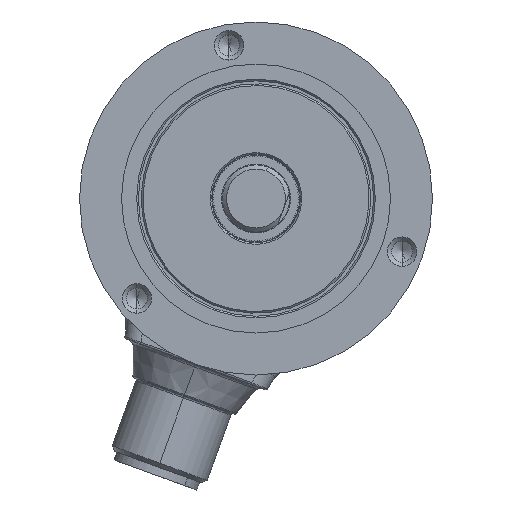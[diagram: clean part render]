
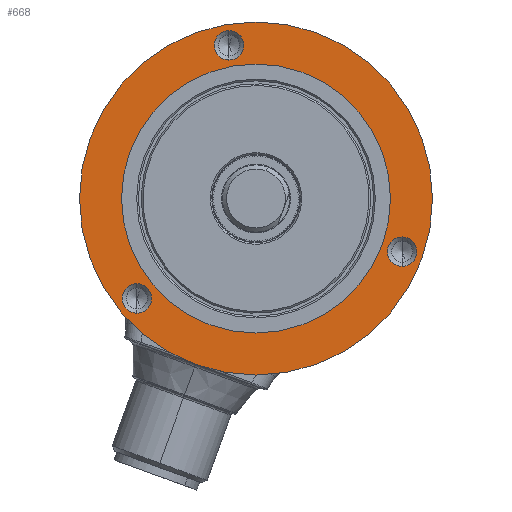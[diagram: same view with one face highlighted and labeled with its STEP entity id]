
A CAD part, left-side view. The second image highlights one B-rep face of the part: STEP entity #668.
In plain terms, the highlighted planar face has unit normal (-1, 0, 0).
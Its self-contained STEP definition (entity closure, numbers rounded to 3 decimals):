
#183 = AXIS2_PLACEMENT_3D ( 'NONE', #10030, #27167, #12517 ) ;
#259 = FACE_OUTER_BOUND ( 'NONE', #29503, .T. ) ;
#540 = VERTEX_POINT ( 'NONE', #30555 ) ;
#668 = ADVANCED_FACE ( 'NONE', ( #6761, #26299, #1012, #13272, #259 ), #26188, .F. ) ;
#802 = DIRECTION ( 'NONE',  ( 0., -1., 0. ) ) ;
#1012 = FACE_BOUND ( 'NONE', #29962, .T. ) ;
#1088 = CARTESIAN_POINT ( 'NONE',  ( 3., 14.172, -11.892 ) ) ;
#1561 = DIRECTION ( 'NONE',  ( 0., -1., 0. ) ) ;
#1656 = CIRCLE ( 'NONE', #10517, 16. ) ;
#1790 = CARTESIAN_POINT ( 'NONE',  ( 3., 16., 0. ) ) ;
#2003 = CIRCLE ( 'NONE', #20292, 1.75 ) ;
#2335 = DIRECTION ( 'NONE',  ( 0., 0., 1. ) ) ;
#2362 = VERTEX_POINT ( 'NONE', #6797 ) ;
#2902 = ORIENTED_EDGE ( 'NONE', *, *, #26740, .F. ) ;
#3404 = EDGE_CURVE ( 'NONE', #4260, #26499, #25350, .T. ) ;
#3518 = DIRECTION ( 'NONE',  ( 0., 0., 1. ) ) ;
#3694 = EDGE_CURVE ( 'NONE', #2362, #15219, #2003, .T. ) ;
#4260 = VERTEX_POINT ( 'NONE', #23255 ) ;
#4829 = DIRECTION ( 'NONE',  ( -1., 0., 0. ) ) ;
#4921 = VERTEX_POINT ( 'NONE', #6054 ) ;
#6054 = CARTESIAN_POINT ( 'NONE',  ( 3., -16., 0. ) ) ;
#6715 = DIRECTION ( 'NONE',  ( 0., 1., 0. ) ) ;
#6761 = FACE_BOUND ( 'NONE', #13428, .T. ) ;
#6797 = CARTESIAN_POINT ( 'NONE',  ( 3., 3.212, 19.969 ) ) ;
#7300 = ORIENTED_EDGE ( 'NONE', *, *, #19453, .F. ) ;
#7619 = DIRECTION ( 'NONE',  ( -1., 0., 0. ) ) ;
#7814 = AXIS2_PLACEMENT_3D ( 'NONE', #23008, #8363, #25476 ) ;
#8215 = CIRCLE ( 'NONE', #183, 1.75 ) ;
#8363 = DIRECTION ( 'NONE',  ( -1., 0., 0. ) ) ;
#8583 = DIRECTION ( 'NONE',  ( -1., 0., 0. ) ) ;
#8671 = EDGE_CURVE ( 'NONE', #4921, #540, #1656, .T. ) ;
#8792 = CARTESIAN_POINT ( 'NONE',  ( 3., -17.384, -8.077 ) ) ;
#9215 = CARTESIAN_POINT ( 'NONE',  ( 3., 21., 0. ) ) ;
#10030 = CARTESIAN_POINT ( 'NONE',  ( 3., 14.172, -11.892 ) ) ;
#10187 = AXIS2_PLACEMENT_3D ( 'NONE', #1790, #21363, #6715 ) ;
#10285 = CIRCLE ( 'NONE', #28074, 1.75 ) ;
#10517 = AXIS2_PLACEMENT_3D ( 'NONE', #30109, #15465, #802 ) ;
#10748 = AXIS2_PLACEMENT_3D ( 'NONE', #23248, #8583, #25707 ) ;
#11335 = CARTESIAN_POINT ( 'NONE',  ( 3., 14.172, -13.642 ) ) ;
#11648 = CARTESIAN_POINT ( 'NONE',  ( 3., 3.212, 16.469 ) ) ;
#11714 = DIRECTION ( 'NONE',  ( -1., 0., 0. ) ) ;
#12206 = VERTEX_POINT ( 'NONE', #30988 ) ;
#12517 = DIRECTION ( 'NONE',  ( 0., 0., 1. ) ) ;
#13272 = FACE_BOUND ( 'NONE', #15064, .T. ) ;
#13428 = EDGE_LOOP ( 'NONE', ( #20135, #2902 ) ) ;
#13640 = EDGE_CURVE ( 'NONE', #26716, #15437, #18579, .T. ) ;
#14570 = CIRCLE ( 'NONE', #10748, 16. ) ;
#14814 = ORIENTED_EDGE ( 'NONE', *, *, #3694, .F. ) ;
#14819 = EDGE_CURVE ( 'NONE', #15219, #2362, #30739, .T. ) ;
#15064 = EDGE_LOOP ( 'NONE', ( #29392, #29697 ) ) ;
#15157 = VERTEX_POINT ( 'NONE', #11335 ) ;
#15219 = VERTEX_POINT ( 'NONE', #11648 ) ;
#15355 = EDGE_LOOP ( 'NONE', ( #7300, #19020 ) ) ;
#15437 = VERTEX_POINT ( 'NONE', #9215 ) ;
#15465 = DIRECTION ( 'NONE',  ( -1., 0., 0. ) ) ;
#16200 = DIRECTION ( 'NONE',  ( -1., 0., 0. ) ) ;
#16439 = EDGE_CURVE ( 'NONE', #15437, #26716, #29870, .T. ) ;
#16592 = EDGE_CURVE ( 'NONE', #540, #4921, #14570, .T. ) ;
#17005 = DIRECTION ( 'NONE',  ( -1., 0., 0. ) ) ;
#18036 = AXIS2_PLACEMENT_3D ( 'NONE', #26394, #11714, #28830 ) ;
#18206 = DIRECTION ( 'NONE',  ( -1., 0., 0. ) ) ;
#18579 = CIRCLE ( 'NONE', #18036, 21. ) ;
#19020 = ORIENTED_EDGE ( 'NONE', *, *, #30286, .F. ) ;
#19453 = EDGE_CURVE ( 'NONE', #12206, #15157, #10285, .T. ) ;
#19488 = CARTESIAN_POINT ( 'NONE',  ( 3., 3.212, 18.219 ) ) ;
#20135 = ORIENTED_EDGE ( 'NONE', *, *, #3404, .F. ) ;
#20292 = AXIS2_PLACEMENT_3D ( 'NONE', #31657, #17005, #2335 ) ;
#21204 = AXIS2_PLACEMENT_3D ( 'NONE', #30850, #16200, #1561 ) ;
#21363 = DIRECTION ( 'NONE',  ( 1., 0., 0. ) ) ;
#21598 = AXIS2_PLACEMENT_3D ( 'NONE', #19488, #4829, #21951 ) ;
#21808 = CIRCLE ( 'NONE', #27137, 1.75 ) ;
#21951 = DIRECTION ( 'NONE',  ( 0., 0., 1. ) ) ;
#22244 = CARTESIAN_POINT ( 'NONE',  ( 3., -17.384, -6.327 ) ) ;
#23008 = CARTESIAN_POINT ( 'NONE',  ( 3., -17.384, -6.327 ) ) ;
#23248 = CARTESIAN_POINT ( 'NONE',  ( 3., 0., 0. ) ) ;
#23255 = CARTESIAN_POINT ( 'NONE',  ( 3., -17.384, -4.577 ) ) ;
#24509 = CARTESIAN_POINT ( 'NONE',  ( 3., -21., 0. ) ) ;
#24585 = ORIENTED_EDGE ( 'NONE', *, *, #16439, .T. ) ;
#24733 = DIRECTION ( 'NONE',  ( 0., 0., 1. ) ) ;
#25108 = ORIENTED_EDGE ( 'NONE', *, *, #13640, .T. ) ;
#25350 = CIRCLE ( 'NONE', #7814, 1.75 ) ;
#25476 = DIRECTION ( 'NONE',  ( 0., 0., 1. ) ) ;
#25707 = DIRECTION ( 'NONE',  ( 0., -1., 0. ) ) ;
#26188 = PLANE ( 'NONE',  #10187 ) ;
#26299 = FACE_BOUND ( 'NONE', #15355, .T. ) ;
#26394 = CARTESIAN_POINT ( 'NONE',  ( 3., 0., 0. ) ) ;
#26499 = VERTEX_POINT ( 'NONE', #8792 ) ;
#26716 = VERTEX_POINT ( 'NONE', #24509 ) ;
#26740 = EDGE_CURVE ( 'NONE', #26499, #4260, #21808, .T. ) ;
#27137 = AXIS2_PLACEMENT_3D ( 'NONE', #22244, #7619, #24733 ) ;
#27167 = DIRECTION ( 'NONE',  ( -1., 0., 0. ) ) ;
#28074 = AXIS2_PLACEMENT_3D ( 'NONE', #1088, #18206, #3518 ) ;
#28830 = DIRECTION ( 'NONE',  ( 0., -1., 0. ) ) ;
#28919 = ORIENTED_EDGE ( 'NONE', *, *, #14819, .F. ) ;
#29392 = ORIENTED_EDGE ( 'NONE', *, *, #8671, .F. ) ;
#29503 = EDGE_LOOP ( 'NONE', ( #25108, #24585 ) ) ;
#29697 = ORIENTED_EDGE ( 'NONE', *, *, #16592, .F. ) ;
#29870 = CIRCLE ( 'NONE', #21204, 21. ) ;
#29962 = EDGE_LOOP ( 'NONE', ( #14814, #28919 ) ) ;
#30109 = CARTESIAN_POINT ( 'NONE',  ( 3., 0., 0. ) ) ;
#30286 = EDGE_CURVE ( 'NONE', #15157, #12206, #8215, .T. ) ;
#30555 = CARTESIAN_POINT ( 'NONE',  ( 3., 16., 0. ) ) ;
#30739 = CIRCLE ( 'NONE', #21598, 1.75 ) ;
#30850 = CARTESIAN_POINT ( 'NONE',  ( 3., 0., 0. ) ) ;
#30988 = CARTESIAN_POINT ( 'NONE',  ( 3., 14.172, -10.142 ) ) ;
#31657 = CARTESIAN_POINT ( 'NONE',  ( 3., 3.212, 18.219 ) ) ;
